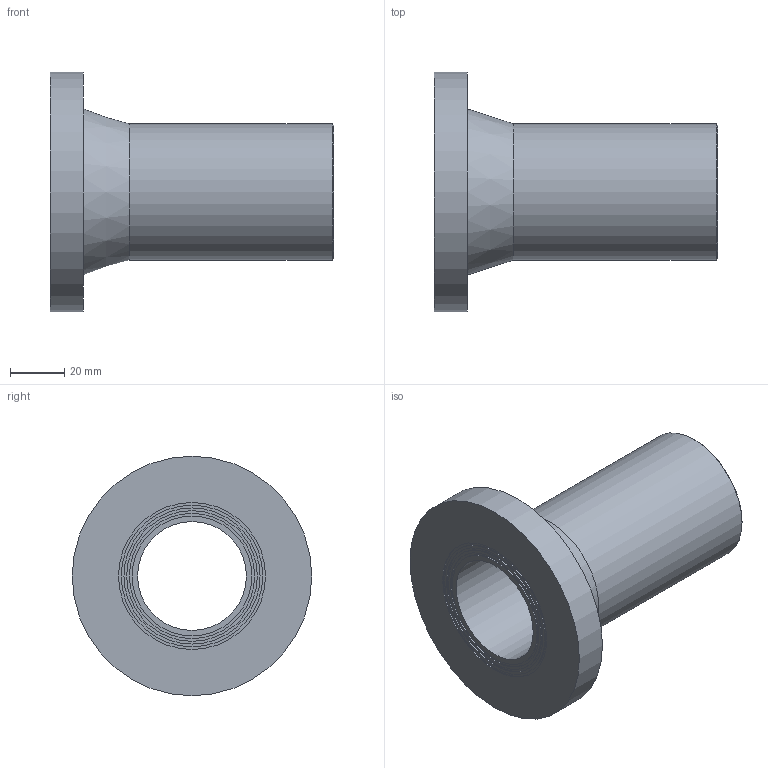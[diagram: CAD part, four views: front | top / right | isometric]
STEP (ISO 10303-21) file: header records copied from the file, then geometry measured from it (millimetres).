
FILE_DESCRIPTION(/* description */ ('Stub Flange 50'),/* implementation_level */ '2;1');
FILE_NAME(/* name */ 'C:\Dropbox\KIMPROJECTS-Inventor\99-16-3568-Processing\ElectroFusion Fittings\31.03.19\490207\490207050.ipt.stp',/* time_stamp */ '2019-03-31T18:57:40+03:00',/* author */ ('Кирилл'),/* organization */ (''),/* preprocessor_version */ 'ST-DEVELOPER v15.6',/* originating_system */ 'Autodesk Inventor 2015',/* authorisation */ '');
FILE_SCHEMA (('AUTOMOTIVE_DESIGN { 1 0 10303 214 3 1 1 }'));
Length unit declared in the file: millimetre
Products named in the file (1): 490207050
Bounding box: 104 x 88 x 88 mm (x, y, z)
Volume: 130568.4 mm3; surface area: 40390.4 mm2
Topology: 1 solids, 1 shells, 20 faces, 31 edges, 20 vertices
Faces by surface type: cylinder 9, plane 9, cone 2
Full cylindrical faces by diameter (mm): 40 x1, 44 x1, 46 x1, 48 x1, 50 x2, 52 x1, 54 x1, 88 x1
Entity records: 432 total; most frequent: DIRECTION 82, CARTESIAN_POINT 61, AXIS2_PLACEMENT_3D 41, EDGE_LOOP 40, ORIENTED_EDGE 40, FACE_BOUND 20, FACE_OUTER_BOUND 20, CIRCLE 20
